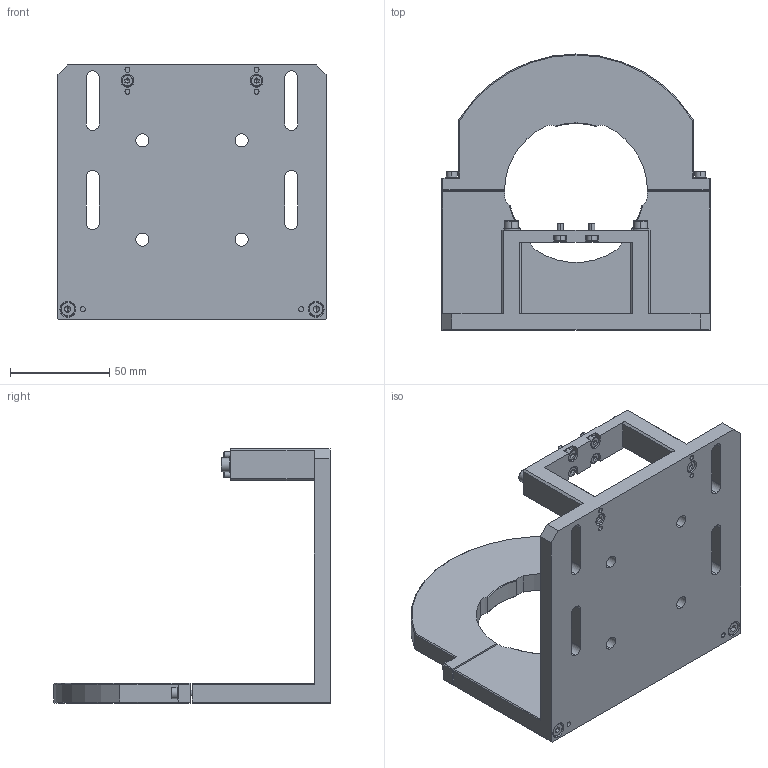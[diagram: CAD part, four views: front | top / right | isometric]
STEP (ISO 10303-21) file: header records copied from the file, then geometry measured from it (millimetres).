
FILE_DESCRIPTION (( 'STEP AP203' ), '1' );
FILE_NAME ('3d_MTL-CHR57_a003.STEP', '2024-02-06T08:51:45', ( '' ), ( '' ), 'SwSTEP 2.0', 'SolidWorks 2020', '' );
FILE_SCHEMA (( 'CONFIG_CONTROL_DESIGN' ));
Length unit declared in the file: millimetre
Products named in the file (1): 3d_MTL-CHR57_a003
Bounding box: 135 x 139 x 128 mm (x, y, z)
Volume: 264098.9 mm3; surface area: 76884.6 mm2
Topology: 1 solids, 3 shells, 463 faces, 1130 edges, 694 vertices
Faces by surface type: plane 250, cylinder 125, cone 52, torus 36
Entity records: 13487 total; most frequent: DIRECTION 2452, CARTESIAN_POINT 2308, ORIENTED_EDGE 2204, EDGE_CURVE 1102, AXIS2_PLACEMENT_3D 902, VERTEX_POINT 694, LINE 648, VECTOR 648
